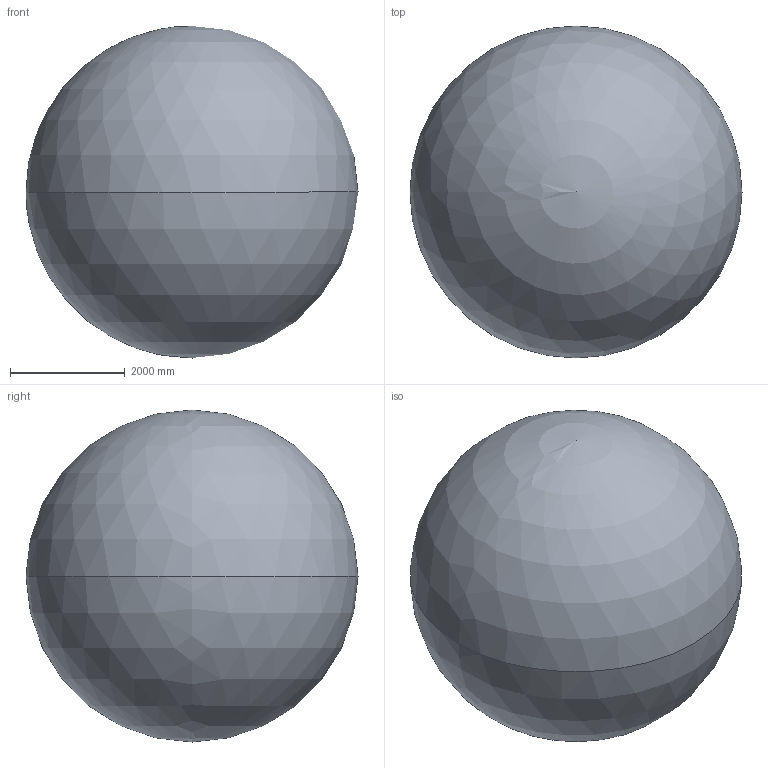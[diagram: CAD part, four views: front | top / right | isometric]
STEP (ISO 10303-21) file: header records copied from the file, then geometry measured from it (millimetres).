
FILE_DESCRIPTION (( 'STEP AP214' ), '1' );
FILE_NAME ('SMART-5 PRESS 130-3.7 SH (3D-STEP).STEP', '2014-01-13T10:09:50', ( '' ), ( '' ), 'SwSTEP 2.0', 'SolidWorks 2011', '' );
FILE_SCHEMA (( 'AUTOMOTIVE_DESIGN' ));
Length unit declared in the file: millimetre
Products named in the file (17): OperationArea_SMART-5 PRESS 130-3.7 SH; SMART-5 PRESS 130-3.7 SH_CR82350060_SM; SMART-5 PRESS 130-3.7 SH_CR82350090_SM; SMART-5 PRESS 130-3.7 SH_CR82350096_SM; SMART-5 PRESS 130-3.7 SH_p12; SMART-5 PRESS 130-3.7 SH_p11; SMART-5 PRESS 130-3.7 SH_p10; SMART-5 PRESS 130-3.7 SH_p09; SMART-5 PRESS 130-3.7 SH_p08; SMART-5 PRESS 130-3.7 SH_p07; SMART-5 PRESS 130-3.7 SH_p06; SMART-5 PRESS 130-3.7 SH_p05; SMART-5 PRESS 130-3.7 SH_p04; SMART-5 PRESS 130-3.7 SH_p03; SMART-5 PRESS 130-3.7 SH_p02; SMART-5 PRESS 130-3.7 SH_p01; SMART-5 PRESS 130-3.7 SH (3D-STEP)
Assembly tree (20 placements, depth 2):
  SMART-5 PRESS 130-3.7 SH (3D-STEP)
    OperationArea_SMART-5 PRESS 130-3.7 SH
    SMART-5 PRESS 130-3.7 SH_CR82350096_SM  x3
    SMART-5 PRESS 130-3.7 SH_p05
    SMART-5 PRESS 130-3.7 SH_p02
    SMART-5 PRESS 130-3.7 SH_p03
    SMART-5 PRESS 130-3.7 SH_p01
    SMART-5 PRESS 130-3.7 SH_p04
    SMART-5 PRESS 130-3.7 SH_CR82350090_SM
    SMART-5 PRESS 130-3.7 SH_CR82350060_SM  x3
    SMART-5 PRESS 130-3.7 SH_p09
    SMART-5 PRESS 130-3.7 SH_p07
    SMART-5 PRESS 130-3.7 SH_p10
    SMART-5 PRESS 130-3.7 SH_p06
    SMART-5 PRESS 130-3.7 SH_p12
    SMART-5 PRESS 130-3.7 SH_p11
    SMART-5 PRESS 130-3.7 SH_p08
Bounding box: 5781.13 x 5781.13 x 5781.13 mm (x, y, z)
Volume: 90534668057.5 mm3; surface area: 150975134.6 mm2
Topology: 20 solids, 22 shells, 7717 faces, 21274 edges, 13749 vertices
Faces by surface type: plane 4393, cylinder 2210, bspline 583, cone 292, torus 186, sphere 53
Entity records: 223544 total; most frequent: CARTESIAN_POINT 80572, ORIENTED_EDGE 28644, DIRECTION 25673, EDGE_CURVE 14322, VERTEX_POINT 9247, AXIS2_PLACEMENT_3D 8822, LINE 8029, VECTOR 8029
